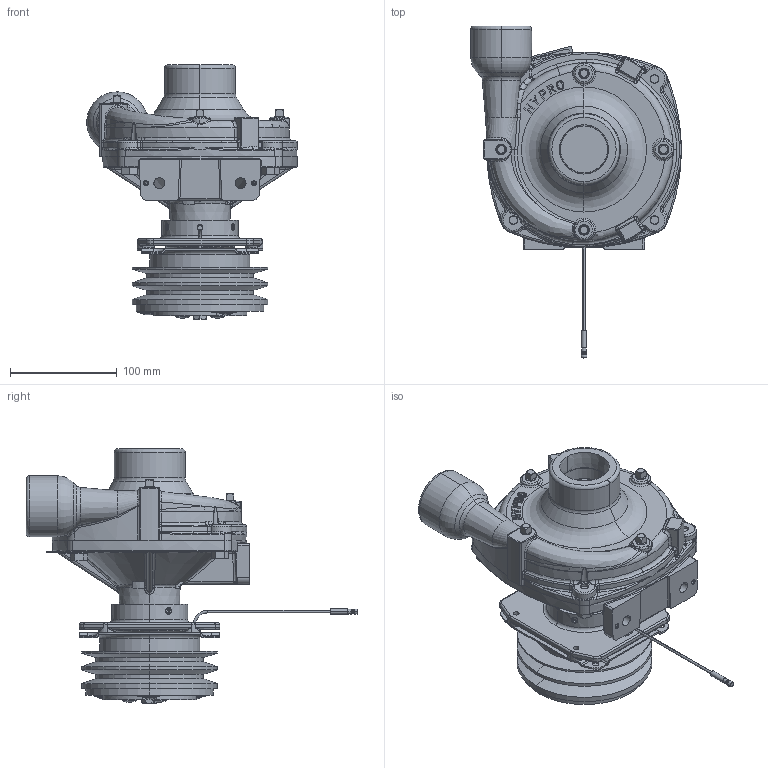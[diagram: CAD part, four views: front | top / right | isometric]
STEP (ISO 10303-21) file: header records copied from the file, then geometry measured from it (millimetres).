
FILE_DESCRIPTION (( 'STEP AP214' ), '1' );
FILE_NAME ('9263S-C.STEP', '2020-06-09T18:55:54', ( '' ), ( '' ), 'SwSTEP 2.0', 'SolidWorks 2017', '' );
FILE_SCHEMA (( 'AUTOMOTIVE_DESIGN' ));
Length unit declared in the file: inch
Products named in the file (2): 9263S-C
Bounding box: 197.7 x 311.38 x 238.76 mm (x, y, z)
Volume: 2585706.2 mm3; surface area: 245884 mm2
Topology: 1 solids, 20 shells, 2906 faces, 7507 edges, 4782 vertices
Faces by surface type: plane 1313, bspline 851, cylinder 395, torus 180, cone 137, sphere 30
Entity records: 170053 total; most frequent: CARTESIAN_POINT 66982, ORIENTED_EDGE 14934, DIRECTION 11137, EDGE_CURVE 7467, VERTEX_POINT 4778, VECTOR 4097, LINE 4097, AXIS2_PLACEMENT_3D 3520
